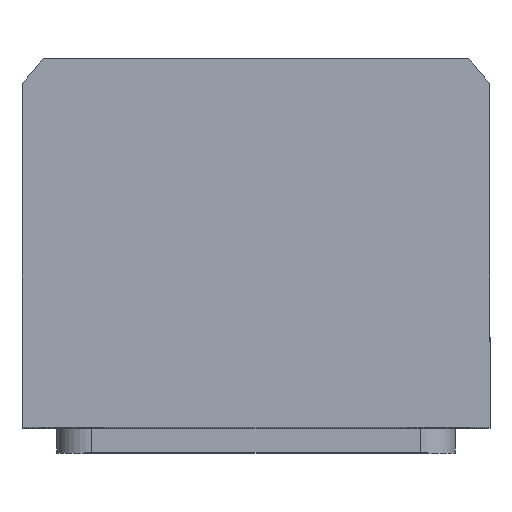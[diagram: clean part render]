
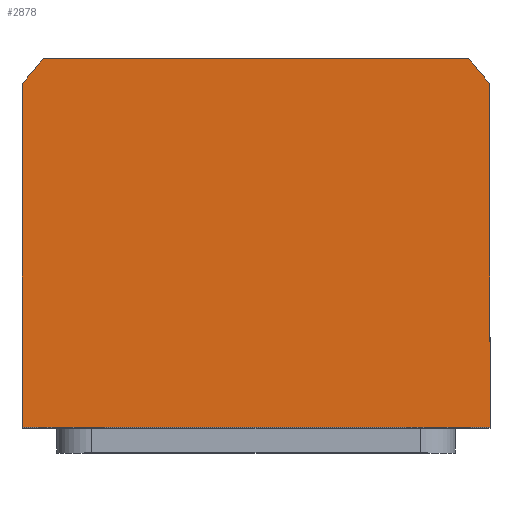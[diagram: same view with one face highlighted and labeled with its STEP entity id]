
A CAD part, top view. The second image highlights one B-rep face of the part: STEP entity #2878.
In plain terms, the highlighted planar face has unit normal (0, 0, 1).
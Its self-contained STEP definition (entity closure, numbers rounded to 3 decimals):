
#352 = CARTESIAN_POINT ( 'NONE',  ( -47., -34., 67.5 ) ) ;
#524 = CARTESIAN_POINT ( 'NONE',  ( -42.688, 40., 67.5 ) ) ;
#529 = LINE ( 'NONE', #524, #6821 ) ;
#943 = FACE_OUTER_BOUND ( 'NONE', #9857, .T. ) ;
#1012 = EDGE_CURVE ( 'NONE', #1448, #9957, #4641, .T. ) ;
#1310 = ORIENTED_EDGE ( 'NONE', *, *, #8313, .T. ) ;
#1448 = VERTEX_POINT ( 'NONE', #3433 ) ;
#1676 = VERTEX_POINT ( 'NONE', #8179 ) ;
#1824 = CARTESIAN_POINT ( 'NONE',  ( -47., -34., 67.5 ) ) ;
#1983 = VERTEX_POINT ( 'NONE', #352 ) ;
#1999 = ORIENTED_EDGE ( 'NONE', *, *, #2087, .T. ) ;
#2087 = EDGE_CURVE ( 'NONE', #9957, #3507, #529, .T. ) ;
#2450 = CARTESIAN_POINT ( 'NONE',  ( 0., 0., 67.5 ) ) ;
#2624 = CARTESIAN_POINT ( 'NONE',  ( 0., 0., 67.5 ) ) ;
#2878 = ADVANCED_FACE ( 'NONE', ( #943 ), #9300, .T. ) ;
#2919 = AXIS2_PLACEMENT_3D ( 'NONE', #2624, #5247, #5327 ) ;
#2931 = ORIENTED_EDGE ( 'NONE', *, *, #8873, .T. ) ;
#2960 = DIRECTION ( 'NONE',  ( 0., 1., 0. ) ) ;
#3102 = CARTESIAN_POINT ( 'NONE',  ( 47., 34.832, 67.5 ) ) ;
#3392 = VECTOR ( 'NONE', #3512, 1000. ) ;
#3433 = CARTESIAN_POINT ( 'NONE',  ( 47., 34.832, 67.5 ) ) ;
#3487 = LINE ( 'NONE', #1824, #5936 ) ;
#3495 = CARTESIAN_POINT ( 'NONE',  ( -47., 34.832, 67.5 ) ) ;
#3507 = VERTEX_POINT ( 'NONE', #10706 ) ;
#3512 = DIRECTION ( 'NONE',  ( 1., 0., 0. ) ) ;
#3530 = LINE ( 'NONE', #3102, #3662 ) ;
#3595 = DIRECTION ( 'NONE',  ( 0., -1., 0. ) ) ;
#3662 = VECTOR ( 'NONE', #2960, 1000. ) ;
#3781 = DIRECTION ( 'NONE',  ( 0., 0., 1. ) ) ;
#3879 = ORIENTED_EDGE ( 'NONE', *, *, #11144, .T. ) ;
#3948 = ORIENTED_EDGE ( 'NONE', *, *, #5601, .T. ) ;
#4641 = CIRCLE ( 'NONE', #10337, 58.5 ) ;
#5247 = DIRECTION ( 'NONE',  ( 0., 0., 1. ) ) ;
#5327 = DIRECTION ( 'NONE',  ( 1., 0., 0. ) ) ;
#5439 = LINE ( 'NONE', #7920, #3392 ) ;
#5601 = EDGE_CURVE ( 'NONE', #3507, #7073, #8615, .T. ) ;
#5791 = DIRECTION ( 'NONE',  ( 1., 0., 0. ) ) ;
#5936 = VECTOR ( 'NONE', #3595, 1000. ) ;
#6821 = VECTOR ( 'NONE', #11004, 1000. ) ;
#7073 = VERTEX_POINT ( 'NONE', #3495 ) ;
#7749 = AXIS2_PLACEMENT_3D ( 'NONE', #2450, #8543, #5791 ) ;
#7920 = CARTESIAN_POINT ( 'NONE',  ( 47., -34., 67.5 ) ) ;
#8149 = CARTESIAN_POINT ( 'NONE',  ( 0., 0., 67.5 ) ) ;
#8179 = CARTESIAN_POINT ( 'NONE',  ( 47., -34., 67.5 ) ) ;
#8313 = EDGE_CURVE ( 'NONE', #1983, #1676, #5439, .T. ) ;
#8543 = DIRECTION ( 'NONE',  ( 0., 0., 1. ) ) ;
#8615 = CIRCLE ( 'NONE', #2919, 58.5 ) ;
#8873 = EDGE_CURVE ( 'NONE', #1676, #1448, #3530, .T. ) ;
#9300 = PLANE ( 'NONE',  #7749 ) ;
#9792 = ORIENTED_EDGE ( 'NONE', *, *, #1012, .T. ) ;
#9857 = EDGE_LOOP ( 'NONE', ( #1310, #2931, #9792, #1999, #3948, #3879 ) ) ;
#9949 = DIRECTION ( 'NONE',  ( 1., 0., 0. ) ) ;
#9957 = VERTEX_POINT ( 'NONE', #10276 ) ;
#10276 = CARTESIAN_POINT ( 'NONE',  ( 42.688, 40., 67.5 ) ) ;
#10337 = AXIS2_PLACEMENT_3D ( 'NONE', #8149, #3781, #9949 ) ;
#10706 = CARTESIAN_POINT ( 'NONE',  ( -42.688, 40., 67.5 ) ) ;
#11004 = DIRECTION ( 'NONE',  ( -1., 0., 0. ) ) ;
#11144 = EDGE_CURVE ( 'NONE', #7073, #1983, #3487, .T. ) ;
